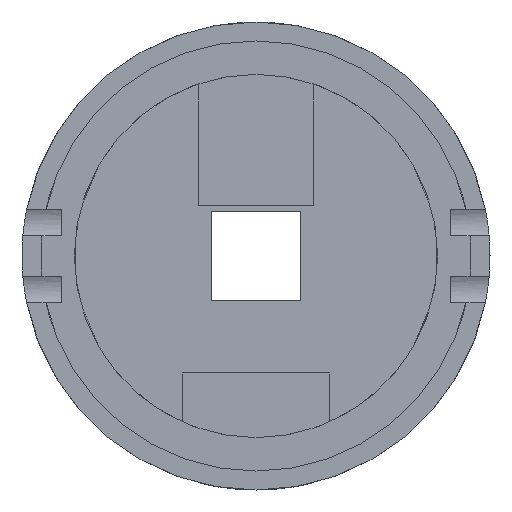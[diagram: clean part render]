
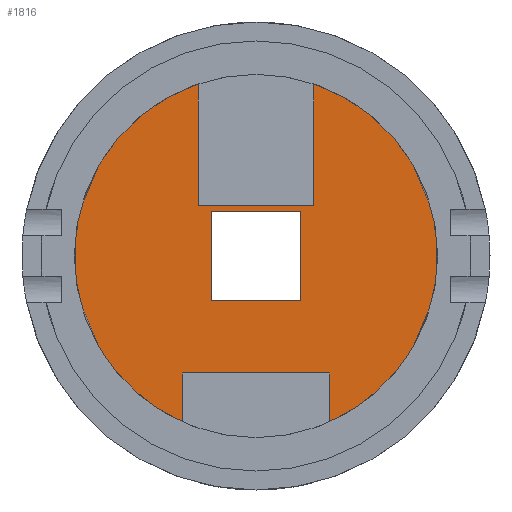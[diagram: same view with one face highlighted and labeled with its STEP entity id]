
A CAD part, left-side view. The second image highlights one B-rep face of the part: STEP entity #1816.
In plain terms, the highlighted planar face has unit normal (-1, 0, 0).
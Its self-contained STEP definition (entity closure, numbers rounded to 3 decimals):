
#1552 = CYLINDRICAL_SURFACE('',#1553,16.3);
#1553 = AXIS2_PLACEMENT_3D('',#1554,#1555,#1556);
#1554 = CARTESIAN_POINT('',(136.56,0.,0.));
#1555 = DIRECTION('',(1.,0.,0.));
#1556 = DIRECTION('',(0.,0.,-1.));
#1599 = VERTEX_POINT('',#1600);
#1600 = CARTESIAN_POINT('',(149.56,0.,-16.3));
#1621 = EDGE_CURVE('',#1599,#1599,#1622,.T.);
#1622 = SURFACE_CURVE('',#1623,(#1628,#1635),.PCURVE_S1.);
#1623 = CIRCLE('',#1624,16.3);
#1624 = AXIS2_PLACEMENT_3D('',#1625,#1626,#1627);
#1625 = CARTESIAN_POINT('',(149.56,0.,0.));
#1626 = DIRECTION('',(1.,-0.,0.));
#1627 = DIRECTION('',(0.,0.,-1.));
#1628 = PCURVE('',#1552,#1629);
#1629 = DEFINITIONAL_REPRESENTATION('',(#1630),#1634);
#1630 = LINE('',#1631,#1632);
#1631 = CARTESIAN_POINT('',(0.,13.));
#1632 = VECTOR('',#1633,1.);
#1633 = DIRECTION('',(1.,0.));
#1634 = ( GEOMETRIC_REPRESENTATION_CONTEXT(2) 
PARAMETRIC_REPRESENTATION_CONTEXT() REPRESENTATION_CONTEXT('2D SPACE',''
  ) );
#1635 = PCURVE('',#1636,#1641);
#1636 = PLANE('',#1637);
#1637 = AXIS2_PLACEMENT_3D('',#1638,#1639,#1640);
#1638 = CARTESIAN_POINT('',(149.56,0.,0.));
#1639 = DIRECTION('',(1.,0.,0.));
#1640 = DIRECTION('',(0.,0.,-1.));
#1641 = DEFINITIONAL_REPRESENTATION('',(#1642),#1646);
#1642 = CIRCLE('',#1643,16.3);
#1643 = AXIS2_PLACEMENT_2D('',#1644,#1645);
#1644 = CARTESIAN_POINT('',(0.,0.));
#1645 = DIRECTION('',(1.,0.));
#1646 = ( GEOMETRIC_REPRESENTATION_CONTEXT(2) 
PARAMETRIC_REPRESENTATION_CONTEXT() REPRESENTATION_CONTEXT('2D SPACE',''
  ) );
#1816 = ADVANCED_FACE('',(#1817,#1820),#1636,.F.);
#1817 = FACE_BOUND('',#1818,.F.);
#1818 = EDGE_LOOP('',(#1819));
#1819 = ORIENTED_EDGE('',*,*,#1621,.T.);
#1820 = FACE_BOUND('',#1821,.F.);
#1821 = EDGE_LOOP('',(#1822,#1850,#1876,#1902));
#1822 = ORIENTED_EDGE('',*,*,#1823,.T.);
#1823 = EDGE_CURVE('',#1824,#1826,#1828,.T.);
#1824 = VERTEX_POINT('',#1825);
#1825 = CARTESIAN_POINT('',(149.56,4.,-4.));
#1826 = VERTEX_POINT('',#1827);
#1827 = CARTESIAN_POINT('',(149.56,-4.,-4.));
#1828 = SURFACE_CURVE('',#1829,(#1833,#1839),.PCURVE_S1.);
#1829 = LINE('',#1830,#1831);
#1830 = CARTESIAN_POINT('',(149.56,-2.,-4.));
#1831 = VECTOR('',#1832,1.);
#1832 = DIRECTION('',(0.,-1.,0.));
#1833 = PCURVE('',#1636,#1834);
#1834 = DEFINITIONAL_REPRESENTATION('',(#1835),#1838);
#1835 = B_SPLINE_CURVE_WITH_KNOTS('',1,(#1836,#1837),.UNSPECIFIED.,.F.,
  .F.,(2,2),(-6.,2.),.PIECEWISE_BEZIER_KNOTS.);
#1836 = CARTESIAN_POINT('',(4.,4.));
#1837 = CARTESIAN_POINT('',(4.,-4.));
#1838 = ( GEOMETRIC_REPRESENTATION_CONTEXT(2) 
PARAMETRIC_REPRESENTATION_CONTEXT() REPRESENTATION_CONTEXT('2D SPACE',''
  ) );
#1839 = PCURVE('',#1840,#1845);
#1840 = PLANE('',#1841);
#1841 = AXIS2_PLACEMENT_3D('',#1842,#1843,#1844);
#1842 = CARTESIAN_POINT('',(147.47,-4.,-4.));
#1843 = DIRECTION('',(0.,0.,1.));
#1844 = DIRECTION('',(1.,0.,-0.));
#1845 = DEFINITIONAL_REPRESENTATION('',(#1846),#1849);
#1846 = B_SPLINE_CURVE_WITH_KNOTS('',1,(#1847,#1848),.UNSPECIFIED.,.F.,
  .F.,(2,2),(-6.,2.),.PIECEWISE_BEZIER_KNOTS.);
#1847 = CARTESIAN_POINT('',(2.09,8.));
#1848 = CARTESIAN_POINT('',(2.09,0.));
#1849 = ( GEOMETRIC_REPRESENTATION_CONTEXT(2) 
PARAMETRIC_REPRESENTATION_CONTEXT() REPRESENTATION_CONTEXT('2D SPACE',''
  ) );
#1850 = ORIENTED_EDGE('',*,*,#1851,.T.);
#1851 = EDGE_CURVE('',#1826,#1852,#1854,.T.);
#1852 = VERTEX_POINT('',#1853);
#1853 = CARTESIAN_POINT('',(149.56,-4.,4.));
#1854 = SURFACE_CURVE('',#1855,(#1859,#1865),.PCURVE_S1.);
#1855 = LINE('',#1856,#1857);
#1856 = CARTESIAN_POINT('',(149.56,-4.,-2.));
#1857 = VECTOR('',#1858,1.);
#1858 = DIRECTION('',(0.,-0.,1.));
#1859 = PCURVE('',#1636,#1860);
#1860 = DEFINITIONAL_REPRESENTATION('',(#1861),#1864);
#1861 = B_SPLINE_CURVE_WITH_KNOTS('',1,(#1862,#1863),.UNSPECIFIED.,.F.,
  .F.,(2,2),(-2.,6.),.PIECEWISE_BEZIER_KNOTS.);
#1862 = CARTESIAN_POINT('',(4.,-4.));
#1863 = CARTESIAN_POINT('',(-4.,-4.));
#1864 = ( GEOMETRIC_REPRESENTATION_CONTEXT(2) 
PARAMETRIC_REPRESENTATION_CONTEXT() REPRESENTATION_CONTEXT('2D SPACE',''
  ) );
#1865 = PCURVE('',#1866,#1871);
#1866 = PLANE('',#1867);
#1867 = AXIS2_PLACEMENT_3D('',#1868,#1869,#1870);
#1868 = CARTESIAN_POINT('',(147.47,-4.,-4.));
#1869 = DIRECTION('',(-0.,1.,0.));
#1870 = DIRECTION('',(0.,0.,1.));
#1871 = DEFINITIONAL_REPRESENTATION('',(#1872),#1875);
#1872 = B_SPLINE_CURVE_WITH_KNOTS('',1,(#1873,#1874),.UNSPECIFIED.,.F.,
  .F.,(2,2),(-2.,6.),.PIECEWISE_BEZIER_KNOTS.);
#1873 = CARTESIAN_POINT('',(0.,2.09));
#1874 = CARTESIAN_POINT('',(8.,2.09));
#1875 = ( GEOMETRIC_REPRESENTATION_CONTEXT(2) 
PARAMETRIC_REPRESENTATION_CONTEXT() REPRESENTATION_CONTEXT('2D SPACE',''
  ) );
#1876 = ORIENTED_EDGE('',*,*,#1877,.F.);
#1877 = EDGE_CURVE('',#1878,#1852,#1880,.T.);
#1878 = VERTEX_POINT('',#1879);
#1879 = CARTESIAN_POINT('',(149.56,4.,4.));
#1880 = SURFACE_CURVE('',#1881,(#1885,#1891),.PCURVE_S1.);
#1881 = LINE('',#1882,#1883);
#1882 = CARTESIAN_POINT('',(149.56,-2.,4.));
#1883 = VECTOR('',#1884,1.);
#1884 = DIRECTION('',(0.,-1.,0.));
#1885 = PCURVE('',#1636,#1886);
#1886 = DEFINITIONAL_REPRESENTATION('',(#1887),#1890);
#1887 = B_SPLINE_CURVE_WITH_KNOTS('',1,(#1888,#1889),.UNSPECIFIED.,.F.,
  .F.,(2,2),(-6.,2.),.PIECEWISE_BEZIER_KNOTS.);
#1888 = CARTESIAN_POINT('',(-4.,4.));
#1889 = CARTESIAN_POINT('',(-4.,-4.));
#1890 = ( GEOMETRIC_REPRESENTATION_CONTEXT(2) 
PARAMETRIC_REPRESENTATION_CONTEXT() REPRESENTATION_CONTEXT('2D SPACE',''
  ) );
#1891 = PCURVE('',#1892,#1897);
#1892 = PLANE('',#1893);
#1893 = AXIS2_PLACEMENT_3D('',#1894,#1895,#1896);
#1894 = CARTESIAN_POINT('',(147.47,-4.,4.));
#1895 = DIRECTION('',(0.,0.,1.));
#1896 = DIRECTION('',(1.,0.,-0.));
#1897 = DEFINITIONAL_REPRESENTATION('',(#1898),#1901);
#1898 = B_SPLINE_CURVE_WITH_KNOTS('',1,(#1899,#1900),.UNSPECIFIED.,.F.,
  .F.,(2,2),(-6.,2.),.PIECEWISE_BEZIER_KNOTS.);
#1899 = CARTESIAN_POINT('',(2.09,8.));
#1900 = CARTESIAN_POINT('',(2.09,0.));
#1901 = ( GEOMETRIC_REPRESENTATION_CONTEXT(2) 
PARAMETRIC_REPRESENTATION_CONTEXT() REPRESENTATION_CONTEXT('2D SPACE',''
  ) );
#1902 = ORIENTED_EDGE('',*,*,#1903,.F.);
#1903 = EDGE_CURVE('',#1824,#1878,#1904,.T.);
#1904 = SURFACE_CURVE('',#1905,(#1909,#1915),.PCURVE_S1.);
#1905 = LINE('',#1906,#1907);
#1906 = CARTESIAN_POINT('',(149.56,4.,-2.));
#1907 = VECTOR('',#1908,1.);
#1908 = DIRECTION('',(0.,-0.,1.));
#1909 = PCURVE('',#1636,#1910);
#1910 = DEFINITIONAL_REPRESENTATION('',(#1911),#1914);
#1911 = B_SPLINE_CURVE_WITH_KNOTS('',1,(#1912,#1913),.UNSPECIFIED.,.F.,
  .F.,(2,2),(-2.,6.),.PIECEWISE_BEZIER_KNOTS.);
#1912 = CARTESIAN_POINT('',(4.,4.));
#1913 = CARTESIAN_POINT('',(-4.,4.));
#1914 = ( GEOMETRIC_REPRESENTATION_CONTEXT(2) 
PARAMETRIC_REPRESENTATION_CONTEXT() REPRESENTATION_CONTEXT('2D SPACE',''
  ) );
#1915 = PCURVE('',#1916,#1921);
#1916 = PLANE('',#1917);
#1917 = AXIS2_PLACEMENT_3D('',#1918,#1919,#1920);
#1918 = CARTESIAN_POINT('',(147.47,4.,-4.));
#1919 = DIRECTION('',(-0.,1.,0.));
#1920 = DIRECTION('',(0.,0.,1.));
#1921 = DEFINITIONAL_REPRESENTATION('',(#1922),#1925);
#1922 = B_SPLINE_CURVE_WITH_KNOTS('',1,(#1923,#1924),.UNSPECIFIED.,.F.,
  .F.,(2,2),(-2.,6.),.PIECEWISE_BEZIER_KNOTS.);
#1923 = CARTESIAN_POINT('',(0.,2.09));
#1924 = CARTESIAN_POINT('',(8.,2.09));
#1925 = ( GEOMETRIC_REPRESENTATION_CONTEXT(2) 
PARAMETRIC_REPRESENTATION_CONTEXT() REPRESENTATION_CONTEXT('2D SPACE',''
  ) );
